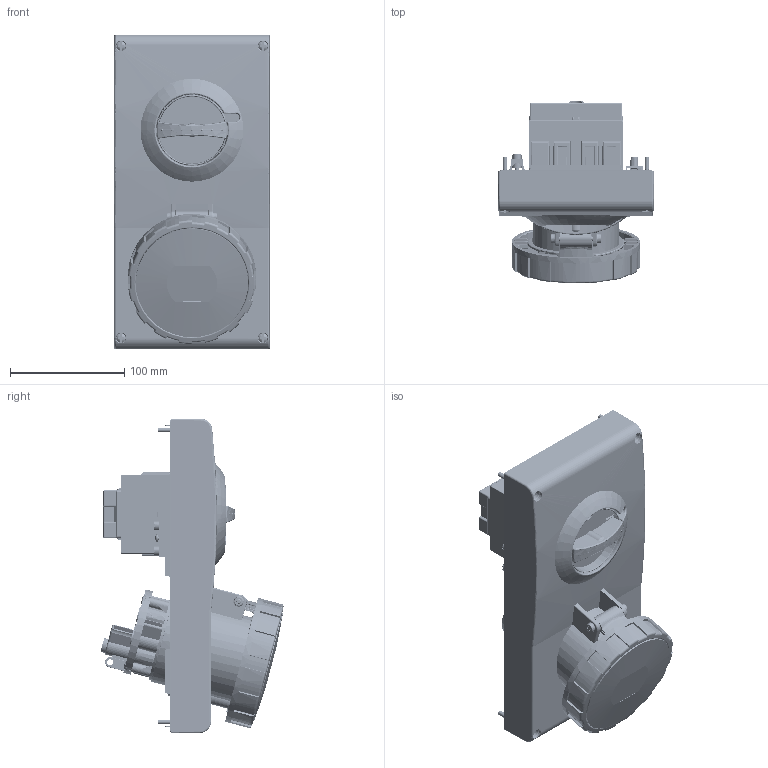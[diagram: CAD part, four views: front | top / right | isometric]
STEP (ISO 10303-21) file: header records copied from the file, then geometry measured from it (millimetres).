
FILE_DESCRIPTION(/* description */ (''),/* implementation_level */ '2;1');
FILE_NAME(/* name */ '4003840.stp',/* time_stamp */ '2020-02-12T08:04:46+01:00',/* author */ (''),/* organization */ (''),/* preprocessor_version */ 'ST-DEVELOPER v16.7',/* originating_system */ 'SIEMENS PLM Software NX 1892',/* authorisation */ '');
FILE_SCHEMA (('AUTOMOTIVE_DESIGN { 1 0 10303 214 3 1 1 1 }'));
Products named in the file (1): BSOM4CC43EF4kuqu
Bounding box: 136 x 159.88 x 275 mm (x, y, z)
Volume: 859774.5 mm3; surface area: 750548.6 mm2
Topology: 61 solids, 61 shells, 9986 faces, 26005 edges, 16280 vertices
Faces by surface type: plane 4553, cylinder 2942, bspline 860, torus 668, cone 488, sphere 355, extrusion 116, revolution 4
Full cylindrical faces by diameter (mm): 0.998 x4, 1.4 x3, 2.3 x2, 2.4 x28, 2.5 x4, 2.55 x1, 2.625 x1, 2.7 x2, 2.8 x22, 3 x39, 3.1 x8, 3.2 x7, 3.5 x10, 3.9 x1, 4 x27, 4.1 x6, 4.14 x2, 4.2 x17, 4.4 x2, 4.5 x10, 4.642 x1, 5 x19, 5.2 x2, 5.5 x10, 5.6 x4, 6 x16, 6.1 x2, 6.2 x8, 6.5 x4, 6.65 x1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
Entity records: 399635 total; most frequent: CARTESIAN_POINT 163790, ORIENTED_EDGE 49510, DIRECTION 47527, EDGE_CURVE 24755, AXIS2_PLACEMENT_3D 17068, VERTEX_POINT 15921, VECTOR 13387, LINE 13271
